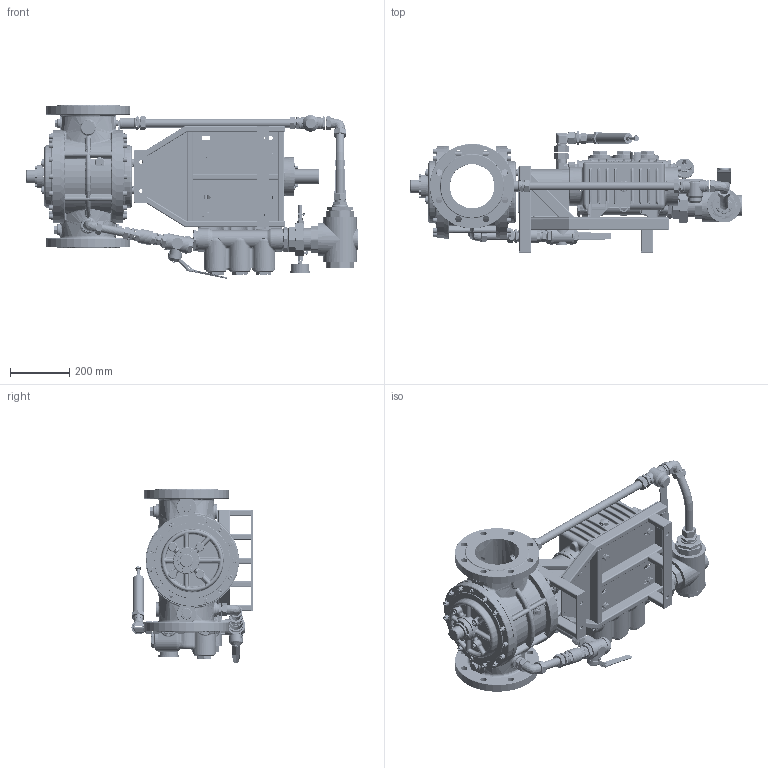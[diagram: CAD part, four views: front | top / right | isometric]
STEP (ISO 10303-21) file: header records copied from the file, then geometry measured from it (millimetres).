
FILE_DESCRIPTION (( 'STEP AP214' ), '1' );
FILE_NAME ('FD4000-09S1-05-090~0.STEP', '2016-09-05T07:02:16', ( '' ), ( '' ), 'SwSTEP 2.0', 'SolidWorks 2015', '' );
FILE_SCHEMA (( 'AUTOMOTIVE_DESIGN' ));
Length unit declared in the file: millimetre
Products named in the file (1): FD4000-09S1-05-090~0
Bounding box: 1117.2 x 408.17 x 583.96 mm (x, y, z)
Surface area: 3107974.2 mm2 (no closed solid volume)
Topology: 0 solids, 366 shells, 5447 faces, 16597 edges, 10953 vertices
Faces by surface type: plane 1715, cylinder 1560, bspline 756, cone 690, torus 673, sphere 53
Entity records: 311028 total; most frequent: CARTESIAN_POINT 112623, DIRECTION 28384, ORIENTED_EDGE 26728, EDGE_CURVE 16418, AXIS2_PLACEMENT_3D 11167, VERTEX_POINT 10936, CIRCLE 6475, LINE 6050
